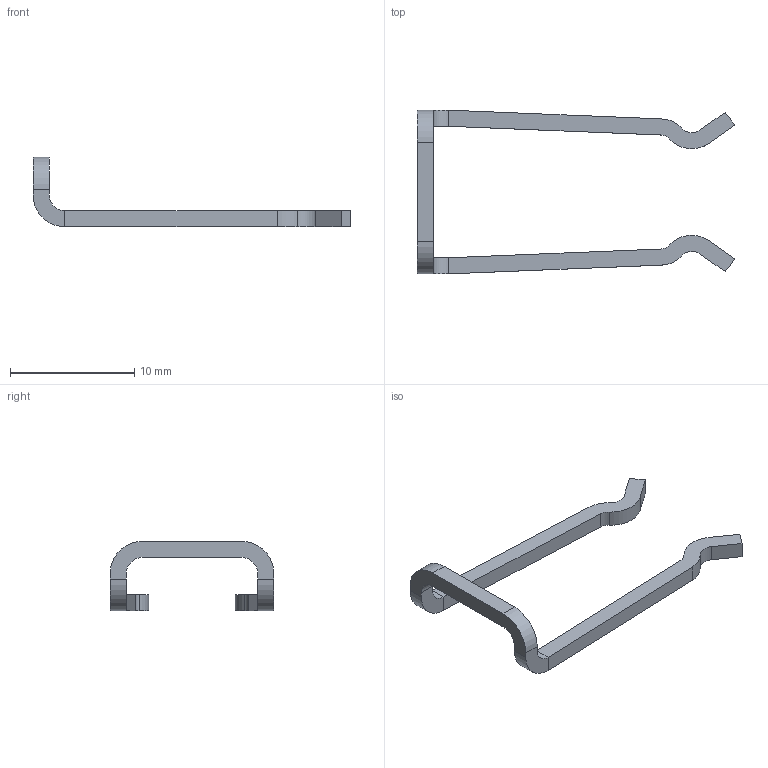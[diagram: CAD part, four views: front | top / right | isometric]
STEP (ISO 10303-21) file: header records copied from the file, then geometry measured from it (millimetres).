
FILE_DESCRIPTION(/* description */ (''),/* implementation_level */ '2;1');
FILE_NAME(/* name */ '112442.stp',/* time_stamp */ '2020-11-16T14:02:46+01:00',/* author */ (''),/* organization */ (''),/* preprocessor_version */ 'ST-DEVELOPER v16.7',/* originating_system */ 'SIEMENS PLM Software NX 12.0',/* authorisation */ '');
FILE_SCHEMA (('AUTOMOTIVE_DESIGN { 1 0 10303 214 3 1 1 1 }'));
Length unit declared in the file: millimetre
Products named in the file (1): 112442
Bounding box: 25.62 x 13.2 x 5.6 mm (x, y, z)
Volume: 114.9 mm3; surface area: 357.1 mm2
Topology: 1 solids, 1 shells, 38 faces, 100 edges, 64 vertices
Faces by surface type: plane 22, cylinder 16
Entity records: 1196 total; most frequent: DIRECTION 210, CARTESIAN_POINT 203, ORIENTED_EDGE 200, EDGE_CURVE 100, AXIS2_PLACEMENT_3D 71, LINE 68, VECTOR 68, VERTEX_POINT 64
